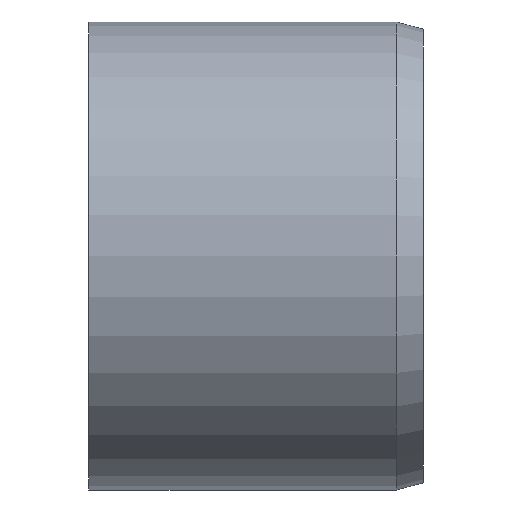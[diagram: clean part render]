
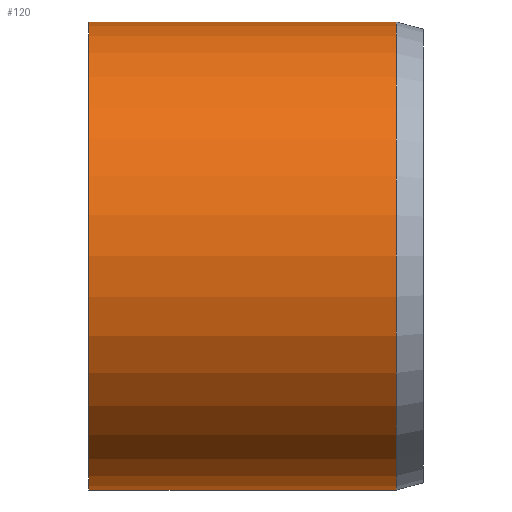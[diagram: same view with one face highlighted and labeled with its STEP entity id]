
A CAD part, front view. The second image highlights one B-rep face of the part: STEP entity #120.
In plain terms, the highlighted cylindrical face has radius 35 mm (diameter 70 mm), a full revolution.
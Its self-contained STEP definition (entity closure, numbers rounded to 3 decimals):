
#20=LINE('',#229,#23);
#23=VECTOR('',#197,35.);
#26=CYLINDRICAL_SURFACE('',#157,35.);
#32=FACE_OUTER_BOUND('',#41,.T.);
#41=EDGE_LOOP('',(#97,#98,#99,#100));
#49=CIRCLE('',#151,35.);
#53=CIRCLE('',#158,35.);
#59=VERTEX_POINT('',#217);
#62=VERTEX_POINT('',#227);
#70=EDGE_CURVE('',#59,#59,#49,.T.);
#74=EDGE_CURVE('',#62,#62,#53,.T.);
#75=EDGE_CURVE('',#62,#59,#20,.T.);
#97=ORIENTED_EDGE('',*,*,#74,.F.);
#98=ORIENTED_EDGE('',*,*,#75,.T.);
#99=ORIENTED_EDGE('',*,*,#70,.T.);
#100=ORIENTED_EDGE('',*,*,#75,.F.);
#120=ADVANCED_FACE('',(#32),#26,.T.);
#151=AXIS2_PLACEMENT_3D('',#218,#181,#182);
#157=AXIS2_PLACEMENT_3D('',#226,#193,#194);
#158=AXIS2_PLACEMENT_3D('',#228,#195,#196);
#181=DIRECTION('center_axis',(1.,0.,0.));
#182=DIRECTION('ref_axis',(0.,0.,-1.));
#193=DIRECTION('center_axis',(1.,0.,0.));
#194=DIRECTION('ref_axis',(0.,1.,0.));
#195=DIRECTION('center_axis',(1.,0.,0.));
#196=DIRECTION('ref_axis',(0.,0.,-1.));
#197=DIRECTION('',(-1.,0.,0.));
#217=CARTESIAN_POINT('',(0.,-35.,0.));
#218=CARTESIAN_POINT('Origin',(0.,0.,0.));
#226=CARTESIAN_POINT('Origin',(23.,0.,0.));
#227=CARTESIAN_POINT('',(46.,-35.,0.));
#228=CARTESIAN_POINT('Origin',(46.,0.,0.));
#229=CARTESIAN_POINT('',(23.,-35.,0.));
